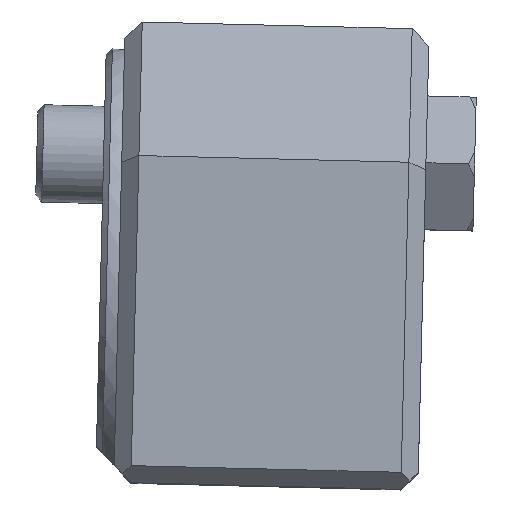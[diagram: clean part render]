
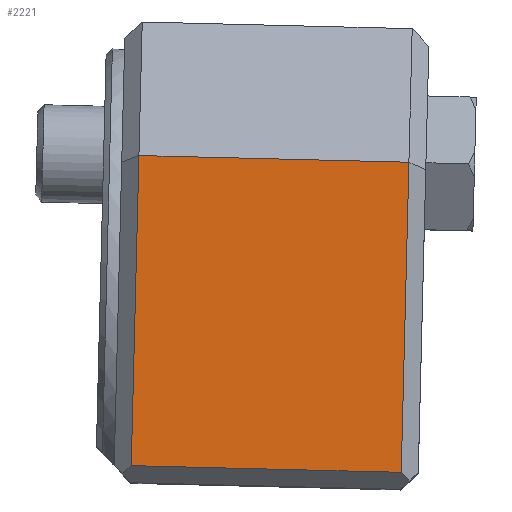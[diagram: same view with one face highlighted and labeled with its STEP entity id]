
A CAD part, top view. The second image highlights one B-rep face of the part: STEP entity #2221.
In plain terms, the highlighted planar face has unit normal (0, 0, 1).
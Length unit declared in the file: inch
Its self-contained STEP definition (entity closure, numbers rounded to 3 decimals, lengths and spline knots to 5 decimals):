
#130=LINE('',#3501,#261);
#135=LINE('',#3511,#266);
#137=LINE('',#3515,#268);
#138=LINE('',#3516,#269);
#261=VECTOR('',#2796,0.3937);
#266=VECTOR('',#2807,0.3937);
#268=VECTOR('',#2811,0.3937);
#269=VECTOR('',#2812,0.3937);
#424=FACE_OUTER_BOUND('',#554,.T.);
#554=EDGE_LOOP('',(#1515,#1516,#1517,#1518));
#883=VERTEX_POINT('',#3498);
#884=VERTEX_POINT('',#3500);
#886=VERTEX_POINT('',#3510);
#887=VERTEX_POINT('',#3514);
#1126=EDGE_CURVE('',#883,#884,#130,.T.);
#1131=EDGE_CURVE('',#884,#886,#135,.T.);
#1133=EDGE_CURVE('',#887,#883,#137,.T.);
#1134=EDGE_CURVE('',#886,#887,#138,.T.);
#1515=ORIENTED_EDGE('',*,*,#1126,.F.);
#1516=ORIENTED_EDGE('',*,*,#1133,.F.);
#1517=ORIENTED_EDGE('',*,*,#1134,.F.);
#1518=ORIENTED_EDGE('',*,*,#1131,.F.);
#2012=PLANE('',#2410);
#2221=ADVANCED_FACE('',(#424),#2012,.T.);
#2410=AXIS2_PLACEMENT_3D('',#3513,#2809,#2810);
#2796=DIRECTION('',(0.025,1.,0.));
#2807=DIRECTION('',(1.,-0.025,0.));
#2809=DIRECTION('center_axis',(0.,0.,
1.));
#2810=DIRECTION('ref_axis',(-0.025,-1.,0.));
#2811=DIRECTION('',(-1.,0.025,0.));
#2812=DIRECTION('',(-0.025,-1.,0.));
#3498=CARTESIAN_POINT('',(-0.92975,-1.14551,1.05691));
#3500=CARTESIAN_POINT('',(-0.90496,-0.14188,1.05691));
#3501=CARTESIAN_POINT('',(-0.90882,-0.29833,1.05691));
#3510=CARTESIAN_POINT('',(-0.03121,-0.16346,1.05691));
#3511=CARTESIAN_POINT('',(-0.96006,-0.14052,1.05691));
#3513=CARTESIAN_POINT('Origin',(-0.96006,-0.14052,1.05691));
#3514=CARTESIAN_POINT('',(-0.056,-1.16709,1.05691));
#3515=CARTESIAN_POINT('',(-0.98485,-1.14415,1.05691));
#3516=CARTESIAN_POINT('',(-0.03507,-0.31991,1.05691));
